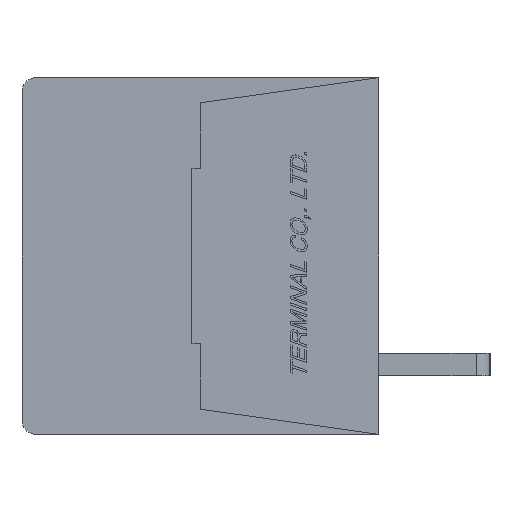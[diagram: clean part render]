
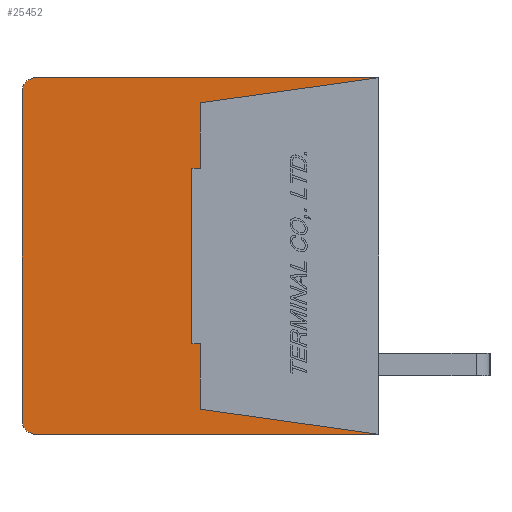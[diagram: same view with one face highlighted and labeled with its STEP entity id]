
A CAD part, left-side view. The second image highlights one B-rep face of the part: STEP entity #25452.
In plain terms, the highlighted planar face has unit normal (-1, 0, 0).
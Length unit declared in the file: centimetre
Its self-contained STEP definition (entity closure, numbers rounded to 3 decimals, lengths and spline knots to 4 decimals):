
#240=CIRCLE('',#43599,0.05);
#241=CIRCLE('',#43600,0.05);
#1752=VERTEX_POINT('',#34095);
#1753=VERTEX_POINT('',#34097);
#1754=VERTEX_POINT('',#34101);
#1755=VERTEX_POINT('',#34105);
#1756=VERTEX_POINT('',#34109);
#1757=VERTEX_POINT('',#34113);
#1758=VERTEX_POINT('',#34117);
#1759=VERTEX_POINT('',#34121);
#1760=VERTEX_POINT('',#34125);
#1761=VERTEX_POINT('',#34127);
#1762=VERTEX_POINT('',#34129);
#1763=VERTEX_POINT('',#34131);
#4432=VECTOR('',#28484,1.);
#4435=VECTOR('',#28488,1.);
#4437=VECTOR('',#28491,1.);
#4439=VECTOR('',#28494,1.);
#4441=VECTOR('',#28497,1.);
#4443=VECTOR('',#28500,1.);
#4445=VECTOR('',#28503,1.);
#4446=VECTOR('',#28505,1.);
#4447=VECTOR('',#28508,1.);
#4448=VECTOR('',#28511,1.);
#7472=LINE('',#34096,#4432);
#7475=LINE('',#34102,#4435);
#7477=LINE('',#34106,#4437);
#7479=LINE('',#34110,#4439);
#7481=LINE('',#34114,#4441);
#7483=LINE('',#34118,#4443);
#7485=LINE('',#34122,#4445);
#7486=LINE('',#34124,#4446);
#7487=LINE('',#34128,#4447);
#7488=LINE('',#34132,#4448);
#10620=EDGE_CURVE('',#1753,#1752,#7472,.T.);
#10623=EDGE_CURVE('',#1752,#1754,#7475,.T.);
#10625=EDGE_CURVE('',#1754,#1755,#7477,.T.);
#10627=EDGE_CURVE('',#1755,#1756,#7479,.T.);
#10629=EDGE_CURVE('',#1756,#1757,#7481,.T.);
#10631=EDGE_CURVE('',#1757,#1758,#7483,.T.);
#10633=EDGE_CURVE('',#1758,#1759,#7485,.T.);
#10634=EDGE_CURVE('',#1759,#1760,#7486,.T.);
#10635=EDGE_CURVE('',#1761,#1760,#240,.T.);
#10636=EDGE_CURVE('',#1761,#1762,#7487,.T.);
#10637=EDGE_CURVE('',#1763,#1762,#241,.T.);
#10638=EDGE_CURVE('',#1763,#1753,#7488,.T.);
#15075=ORIENTED_EDGE('',*,*,#10620,.T.);
#15076=ORIENTED_EDGE('',*,*,#10623,.T.);
#15077=ORIENTED_EDGE('',*,*,#10625,.T.);
#15078=ORIENTED_EDGE('',*,*,#10627,.T.);
#15079=ORIENTED_EDGE('',*,*,#10629,.T.);
#15080=ORIENTED_EDGE('',*,*,#10631,.T.);
#15081=ORIENTED_EDGE('',*,*,#10633,.T.);
#15082=ORIENTED_EDGE('',*,*,#10634,.T.);
#15083=ORIENTED_EDGE('',*,*,#10635,.F.);
#15084=ORIENTED_EDGE('',*,*,#10636,.T.);
#15085=ORIENTED_EDGE('',*,*,#10637,.F.);
#15086=ORIENTED_EDGE('',*,*,#10638,.T.);
#22082=EDGE_LOOP('',(#15075,#15076,#15077,#15078,#15079,#15080,#15081,#15082,
#15083,#15084,#15085,#15086));
#23780=FACE_BOUND('',#22082,.T.);
#25452=ADVANCED_FACE('',(#23780),#26930,.F.);
#26930=PLANE('',#43598);
#28484=DIRECTION('',(0.,0.99,0.139));
#28488=DIRECTION('',(0.,0.,1.));
#28491=DIRECTION('',(0.,1.,0.));
#28494=DIRECTION('',(0.,0.,1.));
#28497=DIRECTION('',(0.,-1.,0.));
#28500=DIRECTION('',(0.,0.,1.));
#28503=DIRECTION('',(0.,-0.99,0.139));
#28504=DIRECTION('',(1.,0.,0.));
#28505=DIRECTION('',(0.,1.,0.));
#28506=DIRECTION('',(1.,0.,0.));
#28507=DIRECTION('',(0.,0.,-0.05));
#28508=DIRECTION('',(0.,0.,-1.));
#28509=DIRECTION('',(1.,0.,0.));
#28510=DIRECTION('',(0.,0.,-0.05));
#28511=DIRECTION('',(0.,-1.,0.));
#34095=CARTESIAN_POINT('',(-0.889,0.64,-0.55));
#34096=CARTESIAN_POINT('',(-0.889,0.5152,-0.5675));
#34097=CARTESIAN_POINT('',(-0.889,0.,-0.64));
#34101=CARTESIAN_POINT('',(-0.889,0.64,-0.315));
#34102=CARTESIAN_POINT('',(-0.889,0.64,-0.2163));
#34105=CARTESIAN_POINT('',(-0.889,0.67,-0.315));
#34106=CARTESIAN_POINT('',(-0.889,0.6447,-0.315));
#34109=CARTESIAN_POINT('',(-0.889,0.67,0.315));
#34110=CARTESIAN_POINT('',(-0.889,0.67,0.));
#34113=CARTESIAN_POINT('',(-0.889,0.64,0.315));
#34114=CARTESIAN_POINT('',(-0.889,0.6447,0.315));
#34117=CARTESIAN_POINT('',(-0.889,0.64,0.55));
#34118=CARTESIAN_POINT('',(-0.889,0.64,0.2162));
#34121=CARTESIAN_POINT('',(-0.889,0.,0.64));
#34122=CARTESIAN_POINT('',(-0.889,0.5152,0.5675));
#34123=CARTESIAN_POINT('',(-0.889,0.6345,0.));
#34124=CARTESIAN_POINT('',(-0.889,0.,0.64));
#34125=CARTESIAN_POINT('',(-0.889,1.23,0.64));
#34126=CARTESIAN_POINT('',(-0.889,1.23,0.59));
#34127=CARTESIAN_POINT('',(-0.889,1.28,0.59));
#34128=CARTESIAN_POINT('',(-0.889,1.28,0.59));
#34129=CARTESIAN_POINT('',(-0.889,1.28,-0.59));
#34130=CARTESIAN_POINT('',(-0.889,1.23,-0.59));
#34131=CARTESIAN_POINT('',(-0.889,1.23,-0.64));
#34132=CARTESIAN_POINT('',(-0.889,1.23,-0.64));
#43598=AXIS2_PLACEMENT_3D('',#34123,#28504,$);
#43599=AXIS2_PLACEMENT_3D('',#34126,#28506,#28507);
#43600=AXIS2_PLACEMENT_3D('',#34130,#28509,#28510);
